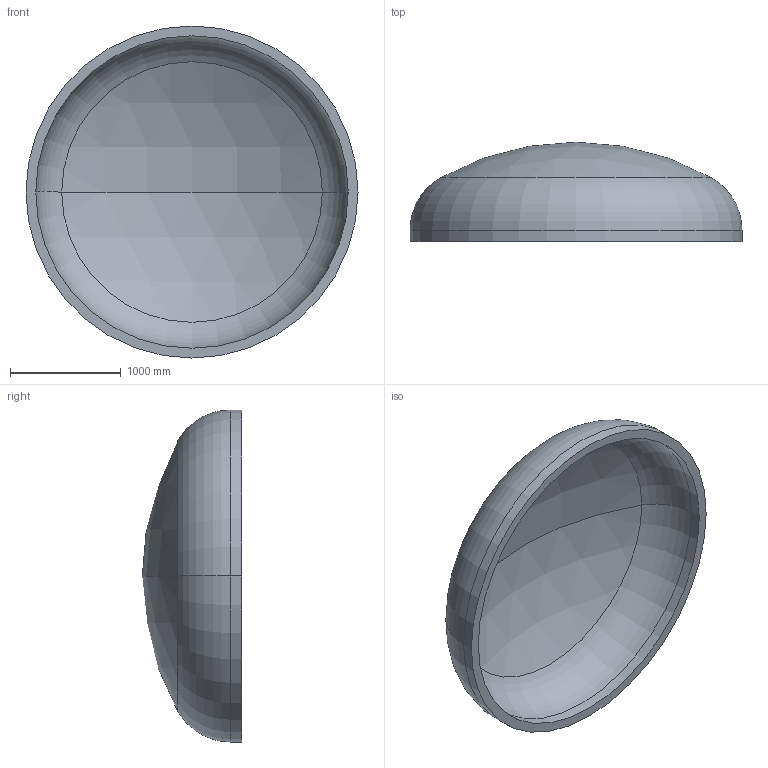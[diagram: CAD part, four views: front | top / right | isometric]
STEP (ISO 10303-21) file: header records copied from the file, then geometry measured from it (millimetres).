
FILE_DESCRIPTION (( 'STEP AP203' ), '1' );
FILE_NAME ('DIN 28013 Korbbogenform_-_Boden DIN 28013 - 3000 x 100 - I - s=88.step', '2016-07-01T18:03:19', ( '' ), ( '' ), 'SwSTEP 2.0', 'SolidWorks 2013', '' );
FILE_SCHEMA (( 'CONFIG_CONTROL_DESIGN' ));
Length unit declared in the file: millimetre
Products named in the file (1): DIN 28013 Korbbogenform_-_Boden DIN 28013 - 3000 x 100 - I - s=88
Bounding box: 3000 x 897.65 x 3000 mm (x, y, z)
Volume: 908888311.8 mm3; surface area: 21477816.7 mm2
Topology: 1 solids, 1 shells, 13 faces, 24 edges, 14 vertices
Faces by surface type: torus 4, cylinder 4, sphere 4, plane 1
Entity records: 407 total; most frequent: DIRECTION 72, CARTESIAN_POINT 52, ORIENTED_EDGE 48, AXIS2_PLACEMENT_3D 34, EDGE_CURVE 24, CIRCLE 20, VERTEX_POINT 14, EDGE_LOOP 14
